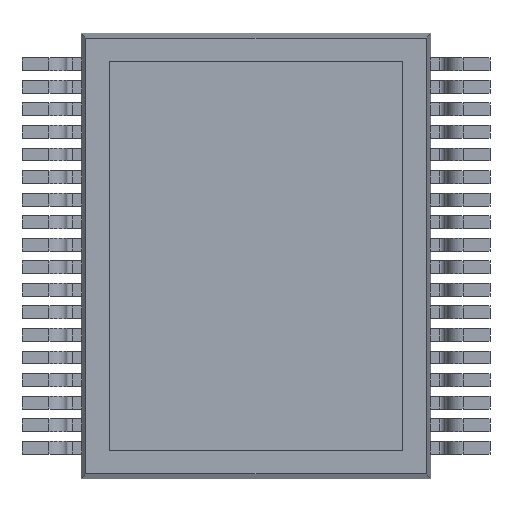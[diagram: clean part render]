
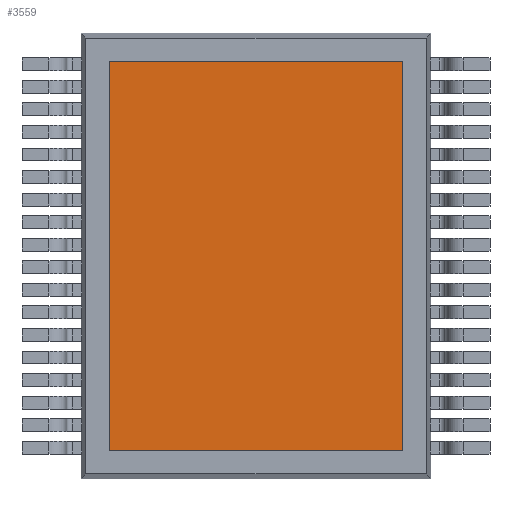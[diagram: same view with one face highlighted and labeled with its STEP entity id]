
A CAD part, front view. The second image highlights one B-rep face of the part: STEP entity #3559.
In plain terms, the highlighted planar face has unit normal (0, -1, 0).
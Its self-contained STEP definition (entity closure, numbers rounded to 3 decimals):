
#1421 = EDGE_CURVE ( 'NONE', #22107, #22105, #13946, .T. ) ;
#1424 = EDGE_CURVE ( 'NONE', #22105, #22100, #13955, .T. ) ;
#1426 = EDGE_CURVE ( 'NONE', #22100, #22098, #13957, .T. ) ;
#1427 = EDGE_CURVE ( 'NONE', #22098, #22107, #13963, .T. ) ;
#3559 = ADVANCED_FACE ( 'NONE', ( #18386 ), #17438, .F. ) ;
#13946 = LINE ( 'NONE', #18818, #13954 ) ;
#13954 = VECTOR ( 'NONE', #18828, 1000. ) ;
#13955 = LINE ( 'NONE', #18830, #13960 ) ;
#13957 = LINE ( 'NONE', #18835, #13964 ) ;
#13960 = VECTOR ( 'NONE', #18840, 1000. ) ;
#13963 = LINE ( 'NONE', #18852, #13967 ) ;
#13964 = VECTOR ( 'NONE', #18849, 1000. ) ;
#13967 = VECTOR ( 'NONE', #18855, 1000. ) ;
#16678 = AXIS2_PLACEMENT_3D ( 'NONE', #17457, #17458, #17459 ) ;
#17438 = PLANE ( 'NONE',  #16678 ) ;
#17457 = CARTESIAN_POINT ( 'NONE',  ( 0., 0., 0. ) ) ;
#17458 = DIRECTION ( 'NONE',  ( 0., 1., 0. ) ) ;
#17459 = DIRECTION ( 'NONE',  ( 0., 0., 1. ) ) ;
#18181 = CARTESIAN_POINT ( 'NONE',  ( -2.6, 0., -3.45 ) ) ;
#18183 = CARTESIAN_POINT ( 'NONE',  ( -2.6, 0., 3.45 ) ) ;
#18188 = CARTESIAN_POINT ( 'NONE',  ( 2.6, 0., 3.45 ) ) ;
#18190 = CARTESIAN_POINT ( 'NONE',  ( 2.6, 0., -3.45 ) ) ;
#18386 = FACE_OUTER_BOUND ( 'NONE', #22927, .T. ) ;
#18818 = CARTESIAN_POINT ( 'NONE',  ( 2.6, 0., 3.45 ) ) ;
#18828 = DIRECTION ( 'NONE',  ( 0., 0., 1. ) ) ;
#18830 = CARTESIAN_POINT ( 'NONE',  ( -2.6, 0., 3.45 ) ) ;
#18835 = CARTESIAN_POINT ( 'NONE',  ( -2.6, 0., 3.45 ) ) ;
#18840 = DIRECTION ( 'NONE',  ( -1., 0., 0. ) ) ;
#18849 = DIRECTION ( 'NONE',  ( 0., 0., -1. ) ) ;
#18852 = CARTESIAN_POINT ( 'NONE',  ( -2.6, 0., -3.45 ) ) ;
#18855 = DIRECTION ( 'NONE',  ( 1., 0., 0. ) ) ;
#22098 = VERTEX_POINT ( 'NONE', #18181 ) ;
#22100 = VERTEX_POINT ( 'NONE', #18183 ) ;
#22105 = VERTEX_POINT ( 'NONE', #18188 ) ;
#22107 = VERTEX_POINT ( 'NONE', #18190 ) ;
#22603 = ORIENTED_EDGE ( 'NONE', *, *, #1421, .T. ) ;
#22604 = ORIENTED_EDGE ( 'NONE', *, *, #1424, .T. ) ;
#22605 = ORIENTED_EDGE ( 'NONE', *, *, #1426, .T. ) ;
#22606 = ORIENTED_EDGE ( 'NONE', *, *, #1427, .T. ) ;
#22927 = EDGE_LOOP ( 'NONE', ( #22603, #22604, #22605, #22606 ) ) ;
